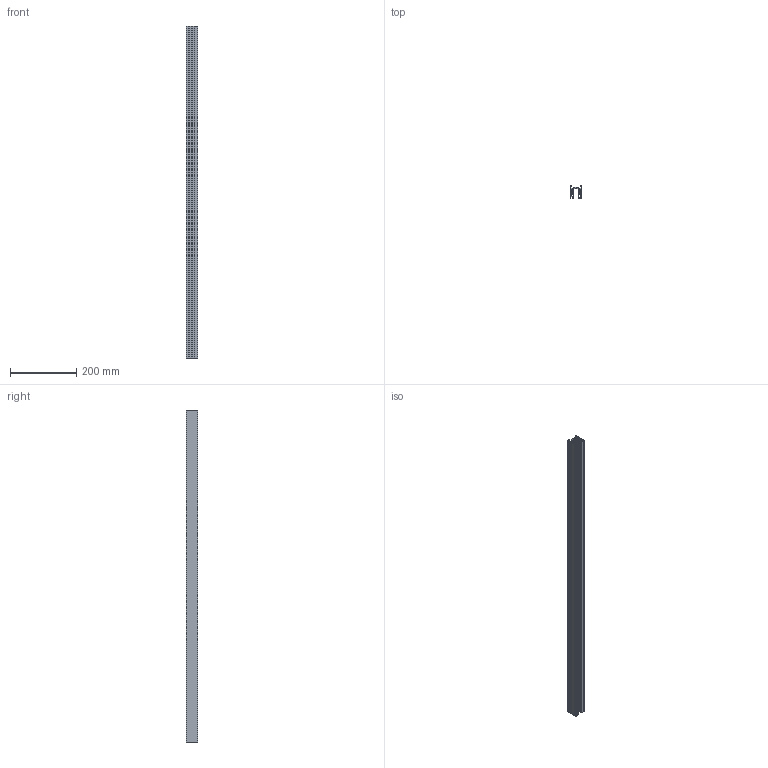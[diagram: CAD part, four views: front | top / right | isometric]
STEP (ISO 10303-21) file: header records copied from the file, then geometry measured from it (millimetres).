
FILE_DESCRIPTION (( 'STEP AP214' ), '1' );
FILE_NAME ('Kehui Track.STEP', '2024-04-30T02:53:17', ( '' ), ( '' ), 'SwSTEP 2.0', 'SolidWorks 2021', '' );
FILE_SCHEMA (( 'AUTOMOTIVE_DESIGN' ));
Length unit declared in the file: millimetre
Products named in the file (1): Kehui Track
Bounding box: 35 x 34.81 x 1000 mm (x, y, z)
Volume: 409615.2 mm3; surface area: 519029.4 mm2
Topology: 9 solids, 9 shells, 292 faces, 822 edges, 548 vertices
Faces by surface type: plane 197, bspline 95
Entity records: 9902 total; most frequent: CARTESIAN_POINT 2898, ORIENTED_EDGE 1644, DIRECTION 1028, EDGE_CURVE 822, LINE 632, VECTOR 632, VERTEX_POINT 548, ADVANCED_FACE 292
